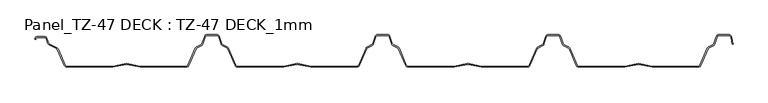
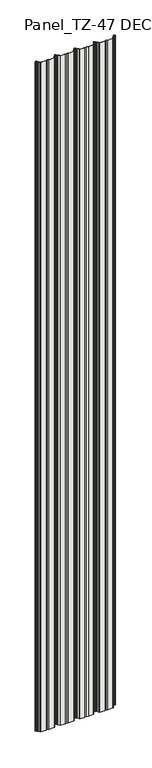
"""IFC4 building model written with IfcOpenShell, lengths in millimetres: roof geometry, Panel_TZ-47 DECK : TZ-47 DECK_1mm."""

from ifc_helpers import new_model, si_unit, point, frame_2d, origin, origin_with_axes, place, context, project, spatial, polyline, circle_curve, trimmed, segment, composite_curve, outline, extrude, source, transform, mapped, element, save


def panel_tz_47_deck_tz_47_deck_1mm_757c216b(model_context):
    return source(origin(), model_context, "Body", "SweptSolid", [
        extrude(outline(composite_curve([segment(trimmed(circle_curve(frame_2d((462.6918032, -44.0)), 2.5), [point((462.6918032, -46.5))], [point((464.9851088, -44.9953639))], True, "CARTESIAN"), True, "CONTINUOUS"), segment(polyline([(464.9851088, -44.9953639), (475.884379, -19.8835868)]), True, "CONTINUOUS"), segment(trimmed(circle_curve(frame_2d((478.6363458, -21.0780235)), 3.0), [point((475.884379, -19.8835868))], [point((477.2893244, -18.397439))], False, "CARTESIAN"), True, "CONTINUOUS"), segment(polyline([(477.2893244, -18.397439), (484.4894233, -14.779315)]), True, "CONTINUOUS"), segment(trimmed(circle_curve(frame_2d((483.5914091, -12.9922586)), 2.0), [point((484.4894233, -14.779315))], [point((485.4900407, -13.6209063))], True, "CARTESIAN"), True, "CONTINUOUS"), segment(polyline([(485.4900407, -13.6209063), (489.2053906, -2.3998665)]), True, "CONTINUOUS"), segment(trimmed(circle_curve(frame_2d((492.5279959, -3.5)), 3.5), [point((489.2053906, -2.3998665))], [point((492.5279959, 0.0))], False, "CARTESIAN"), True, "CONTINUOUS"), segment(polyline([(492.5279959, 0.0), (507.4720041, 0.0)]), True, "CONTINUOUS"), segment(trimmed(circle_curve(frame_2d((507.4720041, -3.5)), 3.5), [point((507.4720041, 0.0))], [point((510.7946094, -2.3998665))], False, "CARTESIAN"), True, "CONTINUOUS"), segment(polyline([(510.7946094, -2.3998665), (512.5145908, -7.5945265)]), True, "CONTINUOUS"), segment(trimmed(circle_curve(frame_2d((510.6159592, -8.2231742)), 2.0), [point((512.5145908, -7.5945265))], [point((512.4038697, -9.1194865))], False, "CARTESIAN"), True, "CONTINUOUS"), segment(trimmed(circle_curve(frame_2d((513.3061161, -9.5655913)), 1.0065078), [point((512.4038697, -9.1194865))], [point((512.3506223, -9.8819608))], True, "CARTESIAN"), True, "CONTINUOUS"), segment(polyline([(512.3506223, -9.8819608), (513.5268409, -13.4343573), (512.5783478, -13.7484087), (511.3729901, -10.1080069)]), True, "CONTINUOUS"), segment(trimmed(circle_curve(frame_2d((513.299086, -9.5693468)), 2.0), [point((511.3729901, -10.1080069))], [point((511.5116051, -8.6721779))], False, "CARTESIAN"), True, "CONTINUOUS"), segment(trimmed(circle_curve(frame_2d((510.6097812, -8.2252198)), 1.0065078), [point((511.5116051, -8.6721779))], [point((511.565275, -7.9088504))], True, "CARTESIAN"), True, "CONTINUOUS"), segment(polyline([(511.565275, -7.9088504), (509.8452936, -2.7141904)]), True, "CONTINUOUS"), segment(trimmed(circle_curve(frame_2d((507.4720041, -3.5)), 2.5), [point((509.8452936, -2.7141904))], [point((507.4720041, -1.0))], True, "CARTESIAN"), True, "CONTINUOUS"), segment(polyline([(507.4720041, -1.0), (492.5279959, -1.0)]), True, "CONTINUOUS"), segment(trimmed(circle_curve(frame_2d((492.5279959, -3.5)), 2.5), [point((492.5279959, -1.0))], [point((490.1547064, -2.7141904))], True, "CARTESIAN"), True, "CONTINUOUS"), segment(polyline([(490.1547064, -2.7141904), (486.4393565, -13.9352302)]), True, "CONTINUOUS"), segment(trimmed(circle_curve(frame_2d((483.5914091, -12.9922586)), 3.0), [point((486.4393565, -13.9352302))], [point((484.9384304, -15.6728432))], False, "CARTESIAN"), True, "CONTINUOUS"), segment(polyline([(484.9384304, -15.6728432), (477.7383315, -19.2909672)]), True, "CONTINUOUS"), segment(trimmed(circle_curve(frame_2d((478.6363458, -21.0780235)), 2.0), [point((477.7383315, -19.2909672))], [point((476.8017013, -20.2817324))], True, "CARTESIAN"), True, "CONTINUOUS"), segment(polyline([(476.8017013, -20.2817324), (465.902431, -45.3935095)]), True, "CONTINUOUS"), segment(trimmed(circle_curve(frame_2d((462.6918032, -44.0)), 3.5), [point((465.902431, -45.3935095))], [point((462.6918032, -47.5))], False, "CARTESIAN"), True, "CONTINUOUS"), segment(polyline([(462.6918032, -47.5), (394.9504902, -47.5), (375.3922323, -43.5883484)]), True, "CONTINUOUS"), segment(trimmed(circle_curve(frame_2d((375.0, -45.5495098)), 2.0), [point((375.3922323, -43.5883484))], [point((374.6077677, -43.5883484))], True, "CARTESIAN"), True, "CONTINUOUS"), segment(polyline([(374.6077677, -43.5883484), (355.0495098, -47.5), (287.3081968, -47.5)]), True, "CONTINUOUS"), segment(trimmed(circle_curve(frame_2d((287.3081968, -44.0)), 3.5), [point((287.3081968, -47.5))], [point((284.097569, -45.3935095))], False, "CARTESIAN"), True, "CONTINUOUS"), segment(polyline([(284.097569, -45.3935095), (273.1982987, -20.2817324)]), True, "CONTINUOUS"), segment(trimmed(circle_curve(frame_2d((271.3636542, -21.0780235)), 2.0), [point((273.1982987, -20.2817324))], [point((272.2616685, -19.2909672))], True, "CARTESIAN"), True, "CONTINUOUS"), segment(polyline([(272.2616685, -19.2909672), (265.0615696, -15.6728432)]), True, "CONTINUOUS"), segment(trimmed(circle_curve(frame_2d((266.4085909, -12.9922586)), 3.0), [point((265.0615696, -15.6728432))], [point((263.5606435, -13.9352302))], False, "CARTESIAN"), True, "CONTINUOUS"), segment(polyline([(263.5606435, -13.9352302), (259.8452936, -2.7141904)]), True, "CONTINUOUS"), segment(trimmed(circle_curve(frame_2d((257.4720041, -3.5)), 2.5), [point((259.8452936, -2.7141904))], [point((257.4720041, -1.0))], True, "CARTESIAN"), True, "CONTINUOUS"), segment(polyline([(257.4720041, -1.0), (242.5279959, -1.0)]), True, "CONTINUOUS"), segment(trimmed(circle_curve(frame_2d((242.5279959, -3.5)), 2.5), [point((242.5279959, -1.0))], [point((240.1547064, -2.7141904))], True, "CARTESIAN"), True, "CONTINUOUS"), segment(polyline([(240.1547064, -2.7141904), (236.4393565, -13.9352302)]), True, "CONTINUOUS"), segment(trimmed(circle_curve(frame_2d((233.5914091, -12.9922586)), 3.0), [point((236.4393565, -13.9352302))], [point((234.9384304, -15.6728432))], False, "CARTESIAN"), True, "CONTINUOUS"), segment(polyline([(234.9384304, -15.6728432), (227.7383315, -19.2909672)]), True, "CONTINUOUS"), segment(trimmed(circle_curve(frame_2d((228.6363458, -21.0780235)), 2.0), [point((227.7383315, -19.2909672))], [point((226.8017013, -20.2817324))], True, "CARTESIAN"), True, "CONTINUOUS"), segment(polyline([(226.8017013, -20.2817324), (215.902431, -45.3935095)]), True, "CONTINUOUS"), segment(trimmed(circle_curve(frame_2d((212.6918032, -44.0)), 3.5), [point((215.902431, -45.3935095))], [point((212.6918032, -47.5))], False, "CARTESIAN"), True, "CONTINUOUS"), segment(polyline([(212.6918032, -47.5), (144.9504902, -47.5), (125.3922323, -43.5883484)]), True, "CONTINUOUS"), segment(trimmed(circle_curve(frame_2d((125.0, -45.5495098)), 2.0), [point((125.3922323, -43.5883484))], [point((124.6077677, -43.5883484))], True, "CARTESIAN"), True, "CONTINUOUS"), segment(polyline([(124.6077677, -43.5883484), (105.0495098, -47.5), (37.3081968, -47.5)]), True, "CONTINUOUS"), segment(trimmed(circle_curve(frame_2d((37.3081968, -44.0)), 3.5), [point((37.3081968, -47.5))], [point((34.097569, -45.3935095))], False, "CARTESIAN"), True, "CONTINUOUS"), segment(polyline([(34.097569, -45.3935095), (23.1982987, -20.2817324)]), True, "CONTINUOUS"), segment(trimmed(circle_curve(frame_2d((21.3636542, -21.0780235)), 2.0), [point((23.1982987, -20.2817324))], [point((22.2616685, -19.2909672))], True, "CARTESIAN"), True, "CONTINUOUS"), segment(polyline([(22.2616685, -19.2909672), (15.0615696, -15.6728432)]), True, "CONTINUOUS"), segment(trimmed(circle_curve(frame_2d((16.4085909, -12.9922586)), 3.0), [point((15.0615696, -15.6728432))], [point((13.5606435, -13.9352302))], False, "CARTESIAN"), True, "CONTINUOUS"), segment(polyline([(13.5606435, -13.9352302), (9.8452936, -2.7141904)]), True, "CONTINUOUS"), segment(trimmed(circle_curve(frame_2d((7.4720041, -3.5)), 2.5), [point((9.8452936, -2.7141904))], [point((7.4720041, -1.0))], True, "CARTESIAN"), True, "CONTINUOUS"), segment(polyline([(7.4720041, -1.0), (-7.4720041, -1.0)]), True, "CONTINUOUS"), segment(trimmed(circle_curve(frame_2d((-7.4720041, -3.5)), 2.5), [point((-7.4720041, -1.0))], [point((-9.8452936, -2.7141904))], True, "CARTESIAN"), True, "CONTINUOUS"), segment(polyline([(-9.8452936, -2.7141904), (-13.5606435, -13.9352302)]), True, "CONTINUOUS"), segment(trimmed(circle_curve(frame_2d((-16.4085909, -12.9922586)), 3.0), [point((-13.5606435, -13.9352302))], [point((-15.0615696, -15.6728432))], False, "CARTESIAN"), True, "CONTINUOUS"), segment(polyline([(-15.0615696, -15.6728432), (-22.2616685, -19.2909672)]), True, "CONTINUOUS"), segment(trimmed(circle_curve(frame_2d((-21.3636542, -21.0780235)), 2.0), [point((-22.2616685, -19.2909672))], [point((-23.1982987, -20.2817324))], True, "CARTESIAN"), True, "CONTINUOUS"), segment(polyline([(-23.1982987, -20.2817324), (-34.097569, -45.3935095)]), True, "CONTINUOUS"), segment(trimmed(circle_curve(frame_2d((-37.3081968, -44.0)), 3.5), [point((-34.097569, -45.3935095))], [point((-37.3081968, -47.5))], False, "CARTESIAN"), True, "CONTINUOUS"), segment(polyline([(-37.3081968, -47.5), (-105.0495098, -47.5), (-124.6077677, -43.5883484)]), True, "CONTINUOUS"), segment(trimmed(circle_curve(frame_2d((-125.0, -45.5495098)), 2.0), [point((-124.6077677, -43.5883484))], [point((-125.3922323, -43.5883484))], True, "CARTESIAN"), True, "CONTINUOUS"), segment(polyline([(-125.3922323, -43.5883484), (-144.9504902, -47.5), (-212.6918032, -47.5)]), True, "CONTINUOUS"), segment(trimmed(circle_curve(frame_2d((-212.6918032, -44.0)), 3.5), [point((-212.6918032, -47.5))], [point((-215.902431, -45.3935095))], False, "CARTESIAN"), True, "CONTINUOUS"), segment(polyline([(-215.902431, -45.3935095), (-226.8017013, -20.2817324)]), True, "CONTINUOUS"), segment(trimmed(circle_curve(frame_2d((-228.6363458, -21.0780235)), 2.0), [point((-226.8017013, -20.2817324))], [point((-227.7383315, -19.2909672))], True, "CARTESIAN"), True, "CONTINUOUS"), segment(polyline([(-227.7383315, -19.2909672), (-234.9384304, -15.6728432)]), True, "CONTINUOUS"), segment(trimmed(circle_curve(frame_2d((-233.5914091, -12.9922586)), 3.0), [point((-234.9384304, -15.6728432))], [point((-236.4393565, -13.9352302))], False, "CARTESIAN"), True, "CONTINUOUS"), segment(polyline([(-236.4393565, -13.9352302), (-240.1547064, -2.7141904)]), True, "CONTINUOUS"), segment(trimmed(circle_curve(frame_2d((-242.5279959, -3.5)), 2.5), [point((-240.1547064, -2.7141904))], [point((-242.5279959, -1.0))], True, "CARTESIAN"), True, "CONTINUOUS"), segment(polyline([(-242.5279959, -1.0), (-257.4720041, -1.0)]), True, "CONTINUOUS"), segment(trimmed(circle_curve(frame_2d((-257.4720041, -3.5)), 2.5), [point((-257.4720041, -1.0))], [point((-259.8452936, -2.7141904))], True, "CARTESIAN"), True, "CONTINUOUS"), segment(polyline([(-259.8452936, -2.7141904), (-263.5606435, -13.9352302)]), True, "CONTINUOUS"), segment(trimmed(circle_curve(frame_2d((-266.4085909, -12.9922586)), 3.0), [point((-263.5606435, -13.9352302))], [point((-265.0615696, -15.6728432))], False, "CARTESIAN"), True, "CONTINUOUS"), segment(polyline([(-265.0615696, -15.6728432), (-272.2616685, -19.2909672)]), True, "CONTINUOUS"), segment(trimmed(circle_curve(frame_2d((-271.3636542, -21.0780235)), 2.0), [point((-272.2616685, -19.2909672))], [point((-273.1982987, -20.2817324))], True, "CARTESIAN"), True, "CONTINUOUS"), segment(polyline([(-273.1982987, -20.2817324), (-284.097569, -45.3935095)]), True, "CONTINUOUS"), segment(trimmed(circle_curve(frame_2d((-287.3081968, -44.0)), 3.5), [point((-284.097569, -45.3935095))], [point((-287.3081968, -47.5))], False, "CARTESIAN"), True, "CONTINUOUS"), segment(polyline([(-287.3081968, -47.5), (-355.0495098, -47.5), (-374.6077677, -43.5883484)]), True, "CONTINUOUS"), segment(trimmed(circle_curve(frame_2d((-375.0, -45.5495098)), 2.0), [point((-374.6077677, -43.5883484))], [point((-375.3922323, -43.5883484))], True, "CARTESIAN"), True, "CONTINUOUS"), segment(polyline([(-375.3922323, -43.5883484), (-394.9504902, -47.5), (-462.6918032, -47.5)]), True, "CONTINUOUS"), segment(trimmed(circle_curve(frame_2d((-462.6918032, -44.0)), 3.5), [point((-462.6918032, -47.5))], [point((-465.902431, -45.3935095))], False, "CARTESIAN"), True, "CONTINUOUS"), segment(polyline([(-465.902431, -45.3935095), (-476.2466011, -21.5606759)]), True, "CONTINUOUS"), segment(trimmed(circle_curve(frame_2d((-478.0812456, -22.3569671)), 2.0), [point((-476.2466011, -21.5606759))], [point((-477.1832313, -20.5699107))], True, "CARTESIAN"), True, "CONTINUOUS"), segment(polyline([(-477.1832313, -20.5699107), (-488.7358058, -14.7646229)]), True, "CONTINUOUS"), segment(trimmed(circle_curve(frame_2d((-487.3887845, -12.0840383)), 3.0), [point((-488.7358058, -14.7646229))], [point((-490.2367319, -13.0270099))], False, "CARTESIAN"), True, "CONTINUOUS"), segment(polyline([(-490.2367319, -13.0270099), (-492.6580479, -5.7141904)]), True, "CONTINUOUS"), segment(trimmed(circle_curve(frame_2d((-495.0313374, -6.5)), 2.5), [point((-492.6580479, -5.7141904))], [point((-495.0313374, -4.0))], True, "CARTESIAN"), True, "CONTINUOUS"), segment(polyline([(-495.0313374, -4.0), (-506.2431725, -4.0)]), True, "CONTINUOUS"), segment(trimmed(circle_curve(frame_2d((-506.2431725, -5.5)), 1.5), [point((-506.2431725, -4.0))], [point((-507.6671462, -5.0285142))], True, "CARTESIAN"), True, "CONTINUOUS"), segment(polyline([(-507.6671462, -5.0285142), (-508.2957939, -6.9271459), (-509.2451097, -6.612822), (-508.616462, -4.7141904)]), True, "CONTINUOUS"), segment(trimmed(circle_curve(frame_2d((-506.2431725, -5.5)), 2.5), [point((-508.616462, -4.7141904))], [point((-506.2431725, -3.0))], False, "CARTESIAN"), True, "CONTINUOUS"), segment(polyline([(-506.2431725, -3.0), (-495.0313374, -3.0)]), True, "CONTINUOUS"), segment(trimmed(circle_curve(frame_2d((-495.0313374, -6.5)), 3.5), [point((-495.0313374, -3.0))], [point((-491.7087321, -5.3998665))], False, "CARTESIAN"), True, "CONTINUOUS"), segment(polyline([(-491.7087321, -5.3998665), (-489.2874161, -12.712686)]), True, "CONTINUOUS"), segment(trimmed(circle_curve(frame_2d((-487.3887845, -12.0840383)), 2.0), [point((-489.2874161, -12.712686))], [point((-488.2867987, -13.8710947))], True, "CARTESIAN"), True, "CONTINUOUS"), segment(polyline([(-488.2867987, -13.8710947), (-476.7342242, -19.6763825)]), True, "CONTINUOUS"), segment(trimmed(circle_curve(frame_2d((-478.0812456, -22.3569671)), 3.0), [point((-476.7342242, -19.6763825))], [point((-475.3292789, -21.1625303))], False, "CARTESIAN"), True, "CONTINUOUS"), segment(polyline([(-475.3292789, -21.1625303), (-464.9851088, -44.9953639)]), True, "CONTINUOUS"), segment(trimmed(circle_curve(frame_2d((-462.6918032, -44.0)), 2.5), [point((-464.9851088, -44.9953639))], [point((-462.6918032, -46.5))], True, "CARTESIAN"), True, "CONTINUOUS"), segment(polyline([(-462.6918032, -46.5), (-395.0495098, -46.5), (-375.5883484, -42.6077677)]), True, "CONTINUOUS"), segment(trimmed(circle_curve(frame_2d((-375.0, -45.5495098)), 3.0), [point((-375.5883484, -42.6077677))], [point((-374.4116516, -42.6077677))], False, "CARTESIAN"), True, "CONTINUOUS"), segment(polyline([(-374.4116516, -42.6077677), (-354.9504902, -46.5), (-287.3081968, -46.5)]), True, "CONTINUOUS"), segment(trimmed(circle_curve(frame_2d((-287.3081968, -44.0)), 2.5), [point((-287.3081968, -46.5))], [point((-285.0148912, -44.9953639))], True, "CARTESIAN"), True, "CONTINUOUS"), segment(polyline([(-285.0148912, -44.9953639), (-274.115621, -19.8835868)]), True, "CONTINUOUS"), segment(trimmed(circle_curve(frame_2d((-271.3636542, -21.0780235)), 3.0), [point((-274.115621, -19.8835868))], [point((-272.7106756, -18.397439))], False, "CARTESIAN"), True, "CONTINUOUS"), segment(polyline([(-272.7106756, -18.397439), (-265.5105767, -14.779315)]), True, "CONTINUOUS"), segment(trimmed(circle_curve(frame_2d((-266.4085909, -12.9922586)), 2.0), [point((-265.5105767, -14.779315))], [point((-264.5099593, -13.6209063))], True, "CARTESIAN"), True, "CONTINUOUS"), segment(polyline([(-264.5099593, -13.6209063), (-260.7946094, -2.3998665)]), True, "CONTINUOUS"), segment(trimmed(circle_curve(frame_2d((-257.4720041, -3.5)), 3.5), [point((-260.7946094, -2.3998665))], [point((-257.4720041, 0.0))], False, "CARTESIAN"), True, "CONTINUOUS"), segment(polyline([(-257.4720041, 0.0), (-242.5279959, 0.0)]), True, "CONTINUOUS"), segment(trimmed(circle_curve(frame_2d((-242.5279959, -3.5)), 3.5), [point((-242.5279959, 0.0))], [point((-239.2053906, -2.3998665))], False, "CARTESIAN"), True, "CONTINUOUS"), segment(polyline([(-239.2053906, -2.3998665), (-235.4900407, -13.6209063)]), True, "CONTINUOUS"), segment(trimmed(circle_curve(frame_2d((-233.5914091, -12.9922586)), 2.0), [point((-235.4900407, -13.6209063))], [point((-234.4894233, -14.779315))], True, "CARTESIAN"), True, "CONTINUOUS"), segment(polyline([(-234.4894233, -14.779315), (-227.2893244, -18.397439)]), True, "CONTINUOUS"), segment(trimmed(circle_curve(frame_2d((-228.6363458, -21.0780235)), 3.0), [point((-227.2893244, -18.397439))], [point((-225.884379, -19.8835868))], False, "CARTESIAN"), True, "CONTINUOUS"), segment(polyline([(-225.884379, -19.8835868), (-214.9851088, -44.9953639)]), True, "CONTINUOUS"), segment(trimmed(circle_curve(frame_2d((-212.6918032, -44.0)), 2.5), [point((-214.9851088, -44.9953639))], [point((-212.6918032, -46.5))], True, "CARTESIAN"), True, "CONTINUOUS"), segment(polyline([(-212.6918032, -46.5), (-145.0495098, -46.5), (-125.5883484, -42.6077677)]), True, "CONTINUOUS"), segment(trimmed(circle_curve(frame_2d((-125.0, -45.5495098)), 3.0), [point((-125.5883484, -42.6077677))], [point((-124.4116516, -42.6077677))], False, "CARTESIAN"), True, "CONTINUOUS"), segment(polyline([(-124.4116516, -42.6077677), (-104.9504902, -46.5), (-37.3081968, -46.5)]), True, "CONTINUOUS"), segment(trimmed(circle_curve(frame_2d((-37.3081968, -44.0)), 2.5), [point((-37.3081968, -46.5))], [point((-35.0148912, -44.9953639))], True, "CARTESIAN"), True, "CONTINUOUS"), segment(polyline([(-35.0148912, -44.9953639), (-24.115621, -19.8835868)]), True, "CONTINUOUS"), segment(trimmed(circle_curve(frame_2d((-21.3636542, -21.0780235)), 3.0), [point((-24.115621, -19.8835868))], [point((-22.7106756, -18.397439))], False, "CARTESIAN"), True, "CONTINUOUS"), segment(polyline([(-22.7106756, -18.397439), (-15.5105767, -14.779315)]), True, "CONTINUOUS"), segment(trimmed(circle_curve(frame_2d((-16.4085909, -12.9922586)), 2.0), [point((-15.5105767, -14.779315))], [point((-14.5099593, -13.6209063))], True, "CARTESIAN"), True, "CONTINUOUS"), segment(polyline([(-14.5099593, -13.6209063), (-10.7946094, -2.3998665)]), True, "CONTINUOUS"), segment(trimmed(circle_curve(frame_2d((-7.4720041, -3.5)), 3.5), [point((-10.7946094, -2.3998665))], [point((-7.4720041, 0.0))], False, "CARTESIAN"), True, "CONTINUOUS"), segment(polyline([(-7.4720041, 0.0), (7.4720041, 0.0)]), True, "CONTINUOUS"), segment(trimmed(circle_curve(frame_2d((7.4720041, -3.5)), 3.5), [point((7.4720041, 0.0))], [point((10.7946094, -2.3998665))], False, "CARTESIAN"), True, "CONTINUOUS"), segment(polyline([(10.7946094, -2.3998665), (14.5099593, -13.6209063)]), True, "CONTINUOUS"), segment(trimmed(circle_curve(frame_2d((16.4085909, -12.9922586)), 2.0), [point((14.5099593, -13.6209063))], [point((15.5105767, -14.779315))], True, "CARTESIAN"), True, "CONTINUOUS"), segment(polyline([(15.5105767, -14.779315), (22.7106756, -18.397439)]), True, "CONTINUOUS"), segment(trimmed(circle_curve(frame_2d((21.3636542, -21.0780235)), 3.0), [point((22.7106756, -18.397439))], [point((24.115621, -19.8835868))], False, "CARTESIAN"), True, "CONTINUOUS"), segment(polyline([(24.115621, -19.8835868), (35.0148912, -44.9953639)]), True, "CONTINUOUS"), segment(trimmed(circle_curve(frame_2d((37.3081968, -44.0)), 2.5), [point((35.0148912, -44.9953639))], [point((37.3081968, -46.5))], True, "CARTESIAN"), True, "CONTINUOUS"), segment(polyline([(37.3081968, -46.5), (104.9504902, -46.5), (124.4116516, -42.6077677)]), True, "CONTINUOUS"), segment(trimmed(circle_curve(frame_2d((125.0, -45.5495098)), 3.0), [point((124.4116516, -42.6077677))], [point((125.5883484, -42.6077677))], False, "CARTESIAN"), True, "CONTINUOUS"), segment(polyline([(125.5883484, -42.6077677), (145.0495098, -46.5), (212.6918032, -46.5)]), True, "CONTINUOUS"), segment(trimmed(circle_curve(frame_2d((212.6918032, -44.0)), 2.5), [point((212.6918032, -46.5))], [point((214.9851088, -44.9953639))], True, "CARTESIAN"), True, "CONTINUOUS"), segment(polyline([(214.9851088, -44.9953639), (225.884379, -19.8835868)]), True, "CONTINUOUS"), segment(trimmed(circle_curve(frame_2d((228.6363458, -21.0780235)), 3.0), [point((225.884379, -19.8835868))], [point((227.2893244, -18.397439))], False, "CARTESIAN"), True, "CONTINUOUS"), segment(polyline([(227.2893244, -18.397439), (234.4894233, -14.779315)]), True, "CONTINUOUS"), segment(trimmed(circle_curve(frame_2d((233.5914091, -12.9922586)), 2.0), [point((234.4894233, -14.779315))], [point((235.4900407, -13.6209063))], True, "CARTESIAN"), True, "CONTINUOUS"), segment(polyline([(235.4900407, -13.6209063), (239.2053906, -2.3998665)]), True, "CONTINUOUS"), segment(trimmed(circle_curve(frame_2d((242.5279959, -3.5)), 3.5), [point((239.2053906, -2.3998665))], [point((242.5279959, 0.0))], False, "CARTESIAN"), True, "CONTINUOUS"), segment(polyline([(242.5279959, 0.0), (257.4720041, 0.0)]), True, "CONTINUOUS"), segment(trimmed(circle_curve(frame_2d((257.4720041, -3.5)), 3.5), [point((257.4720041, 0.0))], [point((260.7946094, -2.3998665))], False, "CARTESIAN"), True, "CONTINUOUS"), segment(polyline([(260.7946094, -2.3998665), (264.5099593, -13.6209063)]), True, "CONTINUOUS"), segment(trimmed(circle_curve(frame_2d((266.4085909, -12.9922586)), 2.0), [point((264.5099593, -13.6209063))], [point((265.5105767, -14.779315))], True, "CARTESIAN"), True, "CONTINUOUS"), segment(polyline([(265.5105767, -14.779315), (272.7106756, -18.397439)]), True, "CONTINUOUS"), segment(trimmed(circle_curve(frame_2d((271.3636542, -21.0780235)), 3.0), [point((272.7106756, -18.397439))], [point((274.115621, -19.8835868))], False, "CARTESIAN"), True, "CONTINUOUS"), segment(polyline([(274.115621, -19.8835868), (285.0148912, -44.9953639)]), True, "CONTINUOUS"), segment(trimmed(circle_curve(frame_2d((287.3081968, -44.0)), 2.5), [point((285.0148912, -44.9953639))], [point((287.3081968, -46.5))], True, "CARTESIAN"), True, "CONTINUOUS"), segment(polyline([(287.3081968, -46.5), (354.9504902, -46.5), (374.4116516, -42.6077677)]), True, "CONTINUOUS"), segment(trimmed(circle_curve(frame_2d((375.0, -45.5495098)), 3.0), [point((374.4116516, -42.6077677))], [point((375.5883484, -42.6077677))], False, "CARTESIAN"), True, "CONTINUOUS"), segment(polyline([(375.5883484, -42.6077677), (395.0495098, -46.5), (462.6918032, -46.5)]), True, "CONTINUOUS")], self_intersect=False)), origin_with_axes(), (0.0, 0.0, 1.0), 9000.0),
    ])


if __name__ == "__main__":
    model = new_model("IFC4")
    model_context = context("Model", 3, world=origin())
    ifc_project = project(units=[si_unit("LENGTHUNIT", "METRE", prefix="MILLI")], contexts=[model_context])
    site = spatial("IfcSite", under=ifc_project)
    building = spatial("IfcBuilding", under=site)
    placement = place(None, origin())
    panel_tz_47_deck_tz_47_deck_1mm_shape = panel_tz_47_deck_tz_47_deck_1mm_757c216b(model_context)
    element("IfcRoof", 1, ObjectType="Panel_TZ-47 DECK : TZ-47 DECK_1mm", at=placement, inside=building, context=model_context, shape_type="MappedRepresentation", body=[
        mapped(panel_tz_47_deck_tz_47_deck_1mm_shape, transform((0.0, 0.0, 0.0), x_axis=(1.0, 0.0, 0.0), y_axis=(0.0, 1.0, 0.0), z_axis=(0.0, 0.0, 1.0))),
    ])
    save(model, "model.ifc")
